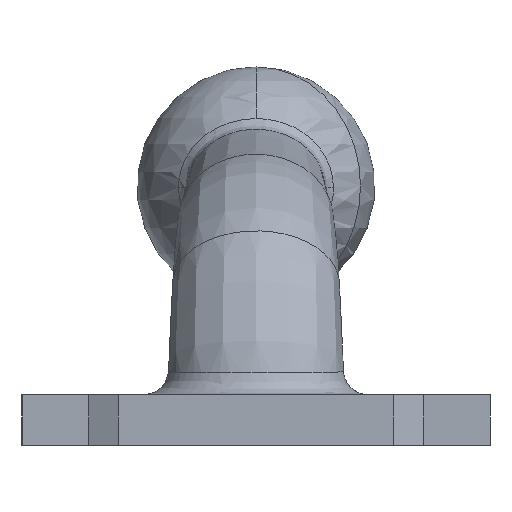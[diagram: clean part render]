
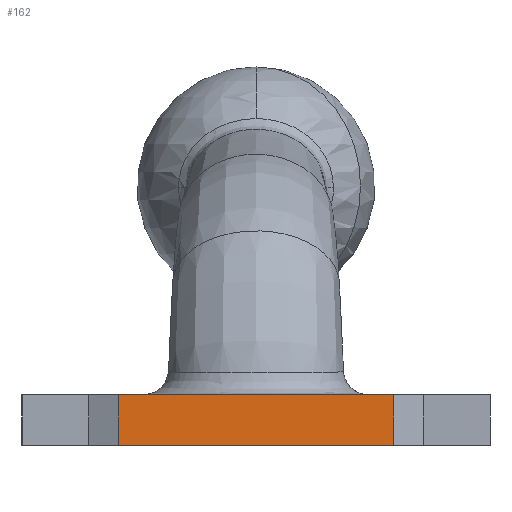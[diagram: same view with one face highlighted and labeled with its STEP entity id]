
A CAD part, left-side view. The second image highlights one B-rep face of the part: STEP entity #162.
In plain terms, the highlighted planar face has unit normal (-1, 0, 0).
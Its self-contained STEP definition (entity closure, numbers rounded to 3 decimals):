
#162=ADVANCED_FACE('Pad.1',(#347),#348,.F.);
#347=FACE_OUTER_BOUND('',#1696,.T.);
#348=PLANE('',#1697);
#1696=EDGE_LOOP('',(#2098,#2099,#2100,#2101));
#1697=AXIS2_PLACEMENT_3D('',#2102,#2103,#2104);
#2098=ORIENTED_EDGE('',*,*,#2410,.T.);
#2099=ORIENTED_EDGE('',*,*,#2312,.T.);
#2100=ORIENTED_EDGE('',*,*,#2412,.F.);
#2101=ORIENTED_EDGE('',*,*,#2333,.F.);
#2102=CARTESIAN_POINT('',(-30.245,16.5,0.0));
#2103=DIRECTION('',(1.0,0.0,0.0));
#2104=DIRECTION('',(0.0,-1.0,0.0));
#2312=EDGE_CURVE('',#2570,#2568,#2571,.T.);
#2333=EDGE_CURVE('',#2604,#2606,#2607,.T.);
#2410=EDGE_CURVE('',#2604,#2570,#2710,.T.);
#2412=EDGE_CURVE('',#2606,#2568,#2712,.T.);
#2568=VERTEX_POINT('',#2980);
#2570=VERTEX_POINT('',#2983);
#2571=LINE('',#2984,#2985);
#2604=VERTEX_POINT('',#3026);
#2606=VERTEX_POINT('',#3029);
#2607=LINE('',#3030,#3031);
#2710=LINE('',#3592,#3593);
#2712=LINE('',#3595,#3596);
#2980=CARTESIAN_POINT('',(-30.245,-16.5,-6.0));
#2983=CARTESIAN_POINT('',(-30.245,16.5,-6.0));
#2984=CARTESIAN_POINT('',(-30.245,0.,-6.0));
#2985=VECTOR('',#3756,1.0);
#3026=CARTESIAN_POINT('',(-30.245,16.5,0.0));
#3029=CARTESIAN_POINT('',(-30.245,-16.5,0.0));
#3030=CARTESIAN_POINT('',(-30.245,0.,0.0));
#3031=VECTOR('',#3796,1.0);
#3592=CARTESIAN_POINT('',(-30.245,16.5,-3.0));
#3593=VECTOR('',#3847,1.0);
#3595=CARTESIAN_POINT('',(-30.245,-16.5,-3.0));
#3596=VECTOR('',#3848,1.0);
#3756=DIRECTION('',(0.0,-1.0,0.0));
#3796=DIRECTION('',(0.0,-1.0,0.0));
#3847=DIRECTION('',(0.0,0.0,-1.0));
#3848=DIRECTION('',(0.0,0.0,-1.0));
